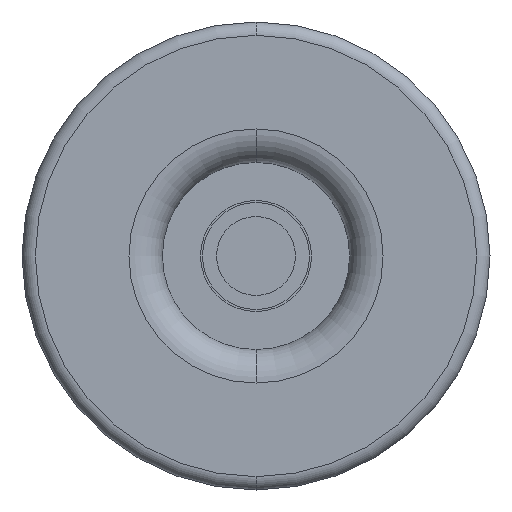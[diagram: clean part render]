
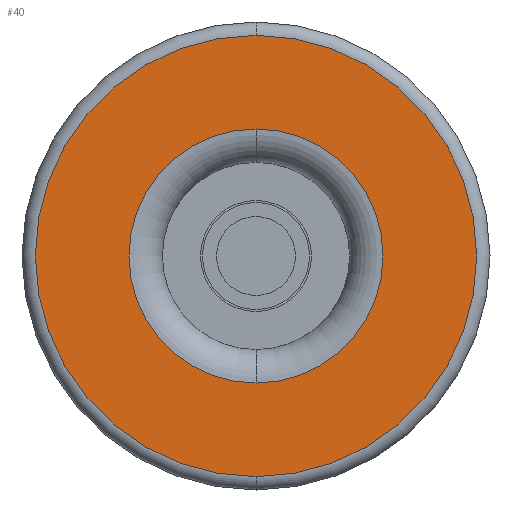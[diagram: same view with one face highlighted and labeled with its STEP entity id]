
A CAD part, front view. The second image highlights one B-rep face of the part: STEP entity #40.
In plain terms, the highlighted planar face has unit normal (0, -1, 0).
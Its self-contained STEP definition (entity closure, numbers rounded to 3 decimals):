
#40 = ADVANCED_FACE ( 'NONE', ( #1872, #6517 ), #2049, .T. ) ;
#417 = CIRCLE ( 'NONE', #5513, 16.5 ) ;
#520 = CIRCLE ( 'NONE', #3989, 9.5 ) ;
#922 = CARTESIAN_POINT ( 'NONE',  ( 0., 0., 9.5 ) ) ;
#980 = EDGE_CURVE ( 'NONE', #5753, #6266, #520, .T. ) ;
#996 = VERTEX_POINT ( 'NONE', #2466 ) ;
#1029 = EDGE_CURVE ( 'NONE', #5120, #996, #3803, .T. ) ;
#1287 = DIRECTION ( 'NONE',  ( 0., -1., 0. ) ) ;
#1449 = CARTESIAN_POINT ( 'NONE',  ( 0., 0., -9.5 ) ) ;
#1452 = CARTESIAN_POINT ( 'NONE',  ( 0., 0., 0. ) ) ;
#1851 = CIRCLE ( 'NONE', #4385, 9.5 ) ;
#1854 = ORIENTED_EDGE ( 'NONE', *, *, #980, .T. ) ;
#1872 = FACE_BOUND ( 'NONE', #4188, .T. ) ;
#1978 = CARTESIAN_POINT ( 'NONE',  ( 0., 0., 0. ) ) ;
#2049 = PLANE ( 'NONE',  #5022 ) ;
#2466 = CARTESIAN_POINT ( 'NONE',  ( 0., 0., 16.5 ) ) ;
#2857 = EDGE_CURVE ( 'NONE', #996, #5120, #417, .T. ) ;
#2933 = EDGE_LOOP ( 'NONE', ( #4648, #3711 ) ) ;
#3002 = AXIS2_PLACEMENT_3D ( 'NONE', #1452, #3996, #3479 ) ;
#3415 = CARTESIAN_POINT ( 'NONE',  ( 0., 0., -16.5 ) ) ;
#3479 = DIRECTION ( 'NONE',  ( 0., 0., -1. ) ) ;
#3597 = DIRECTION ( 'NONE',  ( 0., 1., 0. ) ) ;
#3711 = ORIENTED_EDGE ( 'NONE', *, *, #2857, .T. ) ;
#3803 = CIRCLE ( 'NONE', #3002, 16.5 ) ;
#3970 = DIRECTION ( 'NONE',  ( 0., 0., -1. ) ) ;
#3989 = AXIS2_PLACEMENT_3D ( 'NONE', #1978, #6495, #3970 ) ;
#3996 = DIRECTION ( 'NONE',  ( 0., -1., 0. ) ) ;
#4188 = EDGE_LOOP ( 'NONE', ( #1854, #6066 ) ) ;
#4385 = AXIS2_PLACEMENT_3D ( 'NONE', #6105, #3597, #5624 ) ;
#4499 = EDGE_CURVE ( 'NONE', #6266, #5753, #1851, .T. ) ;
#4648 = ORIENTED_EDGE ( 'NONE', *, *, #1029, .T. ) ;
#5022 = AXIS2_PLACEMENT_3D ( 'NONE', #6591, #5596, #5639 ) ;
#5120 = VERTEX_POINT ( 'NONE', #3415 ) ;
#5513 = AXIS2_PLACEMENT_3D ( 'NONE', #6420, #1287, #6376 ) ;
#5596 = DIRECTION ( 'NONE',  ( 0., -1., 0. ) ) ;
#5624 = DIRECTION ( 'NONE',  ( 0., 0., -1. ) ) ;
#5639 = DIRECTION ( 'NONE',  ( 0., 0., -1. ) ) ;
#5753 = VERTEX_POINT ( 'NONE', #1449 ) ;
#6066 = ORIENTED_EDGE ( 'NONE', *, *, #4499, .T. ) ;
#6105 = CARTESIAN_POINT ( 'NONE',  ( 0., 0., 0. ) ) ;
#6266 = VERTEX_POINT ( 'NONE', #922 ) ;
#6376 = DIRECTION ( 'NONE',  ( 0., 0., -1. ) ) ;
#6420 = CARTESIAN_POINT ( 'NONE',  ( 0., 0., 0. ) ) ;
#6495 = DIRECTION ( 'NONE',  ( 0., 1., 0. ) ) ;
#6517 = FACE_OUTER_BOUND ( 'NONE', #2933, .T. ) ;
#6591 = CARTESIAN_POINT ( 'NONE',  ( -7., 0., 0. ) ) ;
